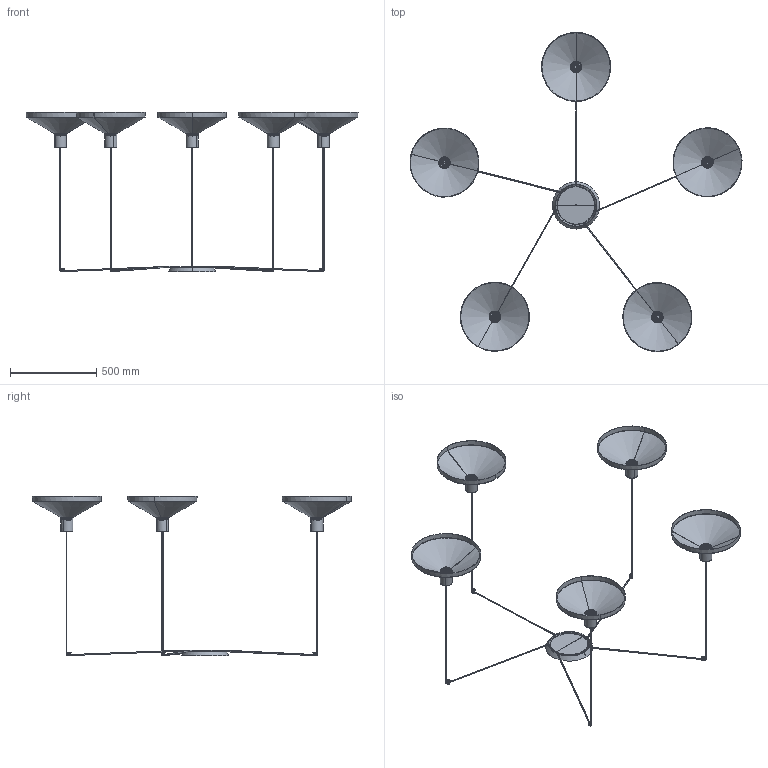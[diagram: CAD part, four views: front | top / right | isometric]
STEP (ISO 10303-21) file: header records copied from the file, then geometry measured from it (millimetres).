
FILE_DESCRIPTION(/* description */ (''),/* implementation_level */ '2;1');
FILE_NAME(/* name */ 'C:\Users\Franco Sartori E\Documents\FARO\DUPLICADO\Modelos\01_Digitalizados\2021\KOMBO\03_Publicación\68595-5L.stp',/* time_stamp */ '2021-02-25T08:55:59+01:00',/* author */ ('Franco Sartori E'),/* organization */ (''),/* preprocessor_version */ 'ST-DEVELOPER v18.1',/* originating_system */ 'AutoCAD Mechanical',/* authorisation */ '');
FILE_SCHEMA (('AUTOMOTIVE_DESIGN { 1 0 10303 214 3 1 1 }'));
Length unit declared in the file: millimetre
Products named in the file (7): Product; CANOPY_5 - 68603-408783-_3D_; KOMBO400FMA - LH-413146-_3D_; KOMBO400FMA - LH-413149-_3D_; KOMBO400FMA - LH-413152-_3D_; KOMBO400FMA - LH-413155-_3D_; KOMBO400FMA - LH-413158-_3D_
Assembly tree (6 placements, depth 2):
  Product
    CANOPY_5 - 68603-408783-_3D_
    KOMBO400FMA - LH-413146-_3D_
    KOMBO400FMA - LH-413149-_3D_
    KOMBO400FMA - LH-413152-_3D_
    KOMBO400FMA - LH-413155-_3D_
    KOMBO400FMA - LH-413158-_3D_
Bounding box: 1921.24 x 1847.66 x 925.51 mm (x, y, z)
Volume: 2221221.1 mm3; surface area: 4424176.4 mm2
Topology: 67 solids, 67 shells, 1357 faces, 3135 edges, 1846 vertices
Faces by surface type: plane 488, cylinder 467, torus 218, cone 184
Entity records: 53400 total; most frequent: CARTESIAN_POINT 23933, ORIENTED_EDGE 6250, DIRECTION 5769, EDGE_CURVE 3125, AXIS2_PLACEMENT_3D 2301, VERTEX_POINT 1846, EDGE_LOOP 1431, FACE_OUTER_BOUND 1357
